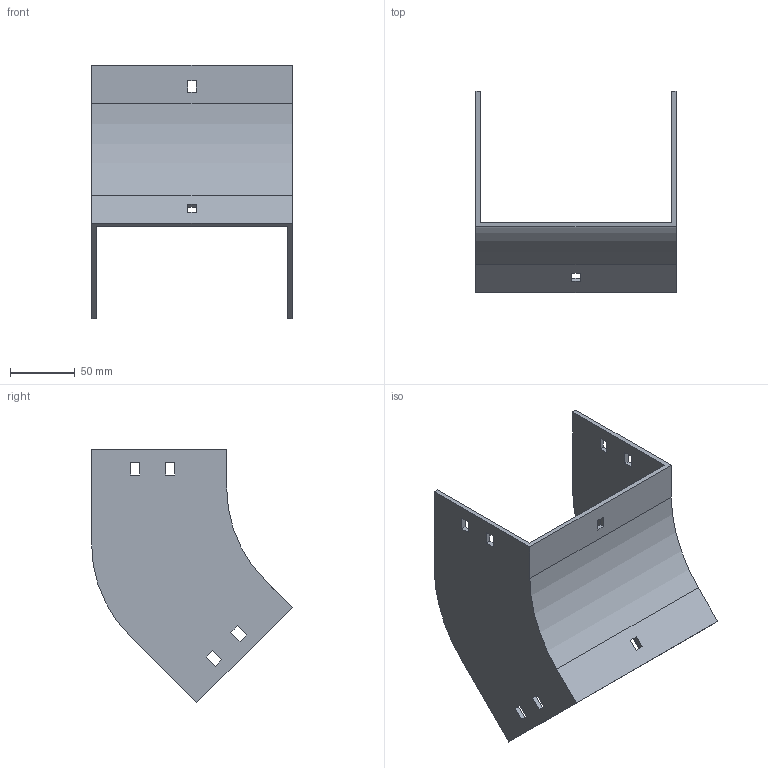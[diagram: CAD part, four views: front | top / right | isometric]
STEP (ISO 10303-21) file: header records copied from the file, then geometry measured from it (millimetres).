
FILE_DESCRIPTION (( 'STEP AP214' ), '1' );
FILE_NAME ('34F1D150.step', '2025-02-21T12:50:18', ( '' ), ( '' ), 'SwSTEP 2.0', 'SolidWorks 2023', '' );
FILE_SCHEMA (( 'AUTOMOTIVE_DESIGN' ));
Length unit declared in the file: millimetre
Products named in the file (1): 34F1D150
Bounding box: 154 x 154.5 x 195.46 mm (x, y, z)
Volume: 204966.8 mm3; surface area: 122341.1 mm2
Topology: 1 solids, 1 shells, 58 faces, 168 edges, 112 vertices
Faces by surface type: plane 54, cylinder 4
Entity records: 1943 total; most frequent: CARTESIAN_POINT 339, ORIENTED_EDGE 336, DIRECTION 294, EDGE_CURVE 168, VECTOR 160, LINE 160, VERTEX_POINT 112, EDGE_LOOP 78
